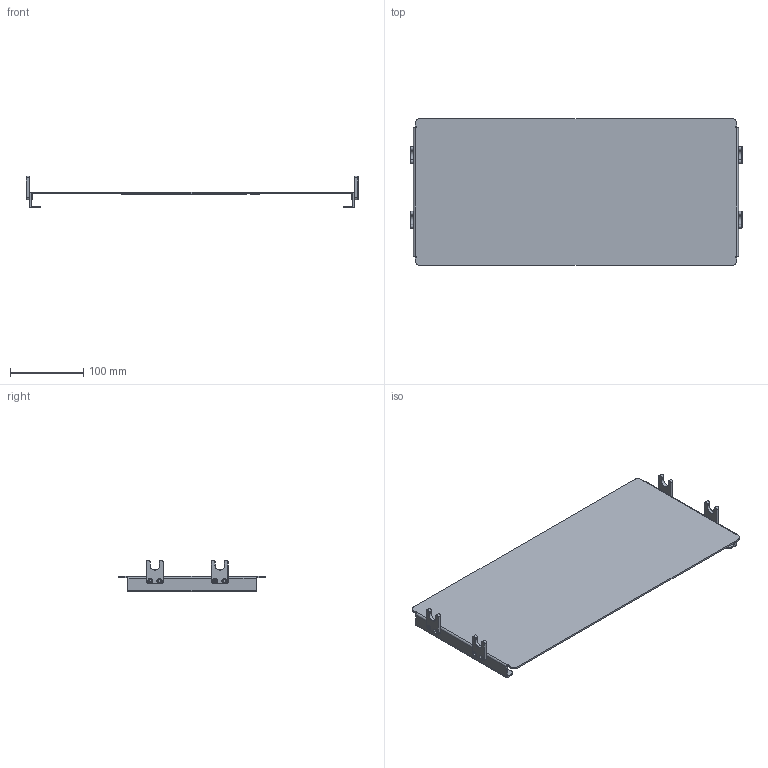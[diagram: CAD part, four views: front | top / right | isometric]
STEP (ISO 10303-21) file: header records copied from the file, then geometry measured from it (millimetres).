
FILE_DESCRIPTION(/* description */ (''),/* implementation_level */ '2;1');
FILE_NAME(/* name */ 'D:\CAD\CAD COMPLETE\web site project\ITA Protective Covers\561007-RevE-STP\561007-RevE-STP.stp',/* time_stamp */ '2017-08-17T08:36:19+01:00',/* author */ ('davec'),/* organization */ (''),/* preprocessor_version */ 'ST-DEVELOPER v15.2',/* originating_system */ 'Autodesk Inventor 2014',/* authorisation */ '');
FILE_SCHEMA (('AUTOMOTIVE_DESIGN { 1 0 10303 214 3 1 1 }'));
Length unit declared in the file: inch
Products named in the file (1): 561007-CU
Bounding box: 454.53 x 200.66 x 43.54 mm (x, y, z)
Volume: 238991.8 mm3; surface area: 210260.8 mm2
Topology: 1 solids, 9 shells, 975 faces, 2535 edges, 1654 vertices
Faces by surface type: plane 598, bspline 213, cylinder 76, cone 72, torus 8, sphere 8
Full cylindrical faces by diameter (mm): 3.175 x8, 3.302 x8, 3.327 x8, 7.112 x8
Entity records: 31091 total; most frequent: CARTESIAN_POINT 7918, ORIENTED_EDGE 4902, DIRECTION 3759, EDGE_CURVE 2451, LINE 1753, VECTOR 1753, VERTEX_POINT 1626, EDGE_LOOP 1123
